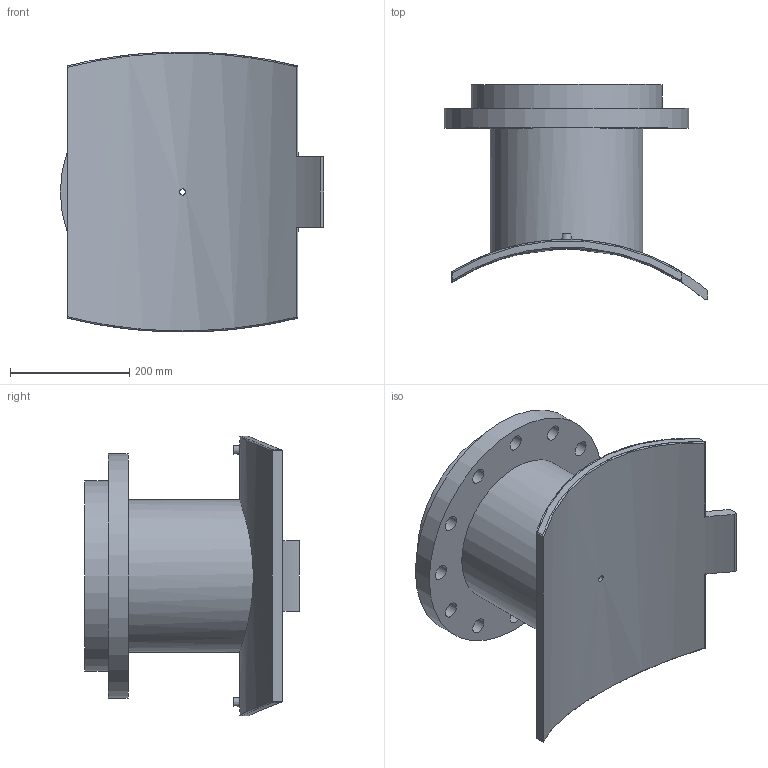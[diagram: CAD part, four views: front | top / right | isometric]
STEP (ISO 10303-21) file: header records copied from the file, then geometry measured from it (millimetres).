
FILE_DESCRIPTION(/* description */ ('PLASSON FLANGED BRANCH SADDLE 710X250'),/* implementation_level */ '2;1');
FILE_NAME(/* name */ 'C:\Dropbox\KIMPROJECTS-Inventor 2019\99-16-3568-Processing\ElectroFusion Fittings\495904_495903\stp\495903710250T.stp',/* time_stamp */ '2024-04-03T21:03:54+02:00',/* author */ ('KIM'),/* organization */ (''),/* preprocessor_version */ 'ST-DEVELOPER v17.2',/* originating_system */ 'Autodesk Inventor 2019',/* authorisation */ '');
FILE_SCHEMA (('AUTOMOTIVE_DESIGN { 1 0 10303 214 3 1 1 }'));
Length unit declared in the file: millimetre
Products named in the file (1): 495903710250T
Bounding box: 441.5 x 360.45 x 469.59 mm (x, y, z)
Volume: 11555769.7 mm3; surface area: 1021063.5 mm2
Topology: 1 solids, 1 shells, 62 faces, 163 edges, 126 vertices
Faces by surface type: cylinder 35, plane 17, sphere 4, bspline 4, cone 2
Full cylindrical faces by diameter (mm): 4 x2, 10 x2, 10.4 x1, 16 x1, 26 x12, 204 x1, 256 x1, 320 x1, 410 x1
Entity records: 2595 total; most frequent: CARTESIAN_POINT 967, DIRECTION 325, ORIENTED_EDGE 298, EDGE_CURVE 149, AXIS2_PLACEMENT_3D 137, VERTEX_POINT 100, EDGE_LOOP 99, CIRCLE 78
